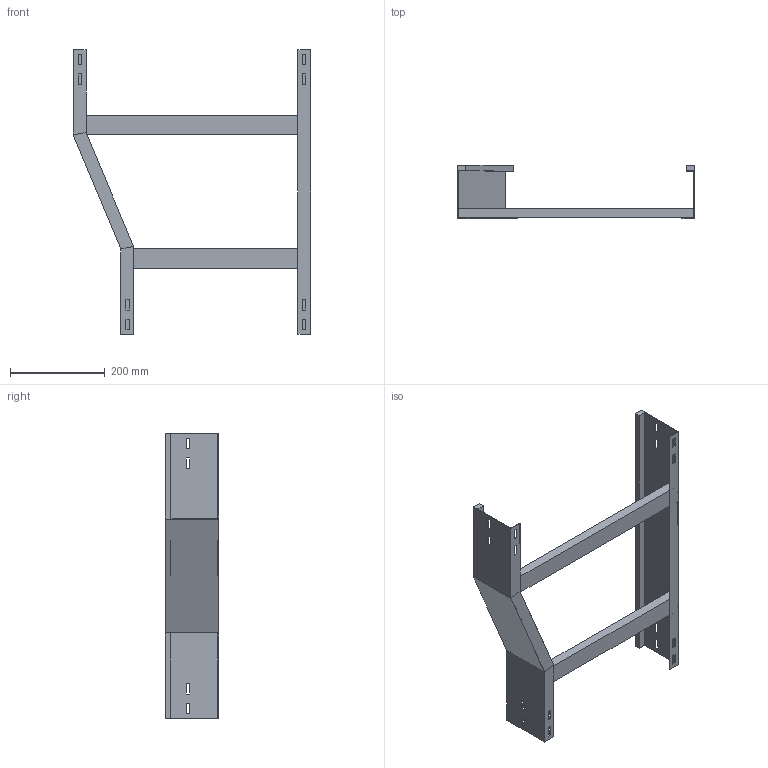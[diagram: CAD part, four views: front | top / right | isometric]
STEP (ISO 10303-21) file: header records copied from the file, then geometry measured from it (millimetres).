
FILE_DESCRIPTION (( 'STEP AP214' ), '1' );
FILE_NAME ('B2X21B4J500XX.step', '2025-09-02T17:17:01', ( '' ), ( '' ), 'SwSTEP 2.0', 'SolidWorks 2023', '' );
FILE_SCHEMA (( 'AUTOMOTIVE_DESIGN' ));
Length unit declared in the file: millimetre
Products named in the file (5): SPONDA RID. DX 500-400_H112.5; B2X21B4J500XX; TRAVERSINO_400; SPONDA DRITTA_H112.5; TRAVERSINO_500
Assembly tree (4 placements, depth 2):
  B2X21B4J500XX
    SPONDA RID. DX 500-400_H112.5
    TRAVERSINO_400
    TRAVERSINO_500
    SPONDA DRITTA_H112.5
Bounding box: 500 x 112.5 x 600 mm (x, y, z)
Volume: 1287332 mm3; surface area: 489388 mm2
Topology: 4 solids, 4 shells, 112 faces, 296 edges, 192 vertices
Faces by surface type: plane 112
Entity records: 3590 total; most frequent: CARTESIAN_POINT 607, ORIENTED_EDGE 592, DIRECTION 534, LINE 296, VECTOR 296, EDGE_CURVE 296, VERTEX_POINT 192, EDGE_LOOP 144
